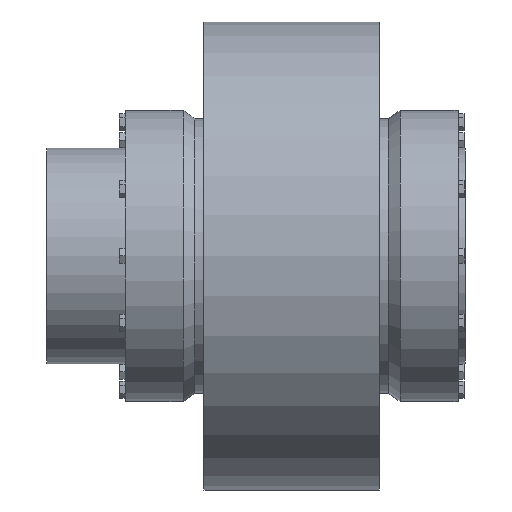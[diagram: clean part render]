
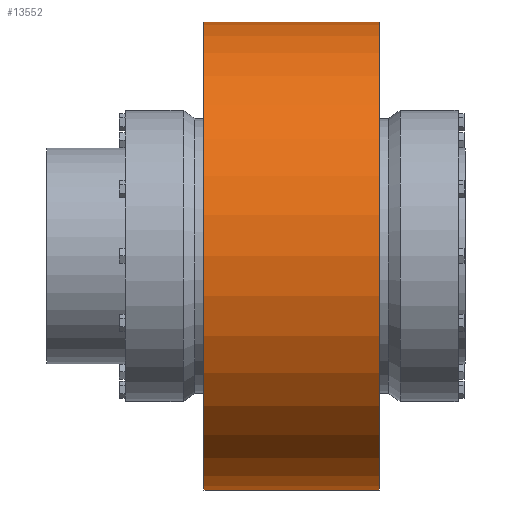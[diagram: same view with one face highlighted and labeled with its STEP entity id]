
A CAD part, top view. The second image highlights one B-rep face of the part: STEP entity #13552.
In plain terms, the highlighted cylindrical face has radius 157.5 mm (diameter 315 mm), a partial arc.
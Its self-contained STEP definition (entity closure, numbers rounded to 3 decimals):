
#13304=CARTESIAN_POINT('',(59.,0.,0.));
#13305=DIRECTION('',(1.,0.,0.));
#13306=DIRECTION('',(0.,1.,0.));
#13307=AXIS2_PLACEMENT_3D('',#13304,#13305,#13306);
#13309=DIRECTION('',(-1.,0.,0.));
#13310=VECTOR('',#13309,118.);
#13311=CARTESIAN_POINT('',(59.,157.5,0.));
#13312=LINE('',#13311,#13310);
#13313=DIRECTION('',(-1.,0.,0.));
#13314=VECTOR('',#13313,118.);
#13315=CARTESIAN_POINT('',(59.,-157.5,0.));
#13316=LINE('',#13315,#13314);
#13327=CARTESIAN_POINT('',(-59.,0.,0.));
#13328=DIRECTION('',(1.,0.,0.));
#13329=DIRECTION('',(0.,1.,0.));
#13330=AXIS2_PLACEMENT_3D('',#13327,#13328,#13329);
#13384=CARTESIAN_POINT('',(59.,157.5,0.));
#13385=CARTESIAN_POINT('',(-59.,157.5,0.));
#13386=VERTEX_POINT('',#13384);
#13387=VERTEX_POINT('',#13385);
#13392=CARTESIAN_POINT('',(59.,-157.5,0.));
#13393=CARTESIAN_POINT('',(-59.,-157.5,0.));
#13394=VERTEX_POINT('',#13392);
#13395=VERTEX_POINT('',#13393);
#13538=CARTESIAN_POINT('',(-64.9,0.,0.));
#13539=DIRECTION('',(1.,0.,0.));
#13540=DIRECTION('',(0.,-1.,0.));
#13541=AXIS2_PLACEMENT_3D('',#13538,#13539,#13540);
#13542=CYLINDRICAL_SURFACE('',#13541,157.5);
#13544=ORIENTED_EDGE('',*,*,#13543,.F.);
#13545=ORIENTED_EDGE('',*,*,#13527,.T.);
#13547=ORIENTED_EDGE('',*,*,#13546,.T.);
#13549=ORIENTED_EDGE('',*,*,#13548,.F.);
#13550=EDGE_LOOP('',(#13544,#13545,#13547,#13549));
#13551=FACE_OUTER_BOUND('',#13550,.F.);
#13552=ADVANCED_FACE('',(#13551),#13542,.T.);
#13308=CIRCLE('',#13307,157.5);
#13331=CIRCLE('',#13330,157.5);
#13527=EDGE_CURVE('',#13386,#13394,#13308,.T.);
#13543=EDGE_CURVE('',#13386,#13387,#13312,.T.);
#13546=EDGE_CURVE('',#13394,#13395,#13316,.T.);
#13548=EDGE_CURVE('',#13387,#13395,#13331,.T.);
